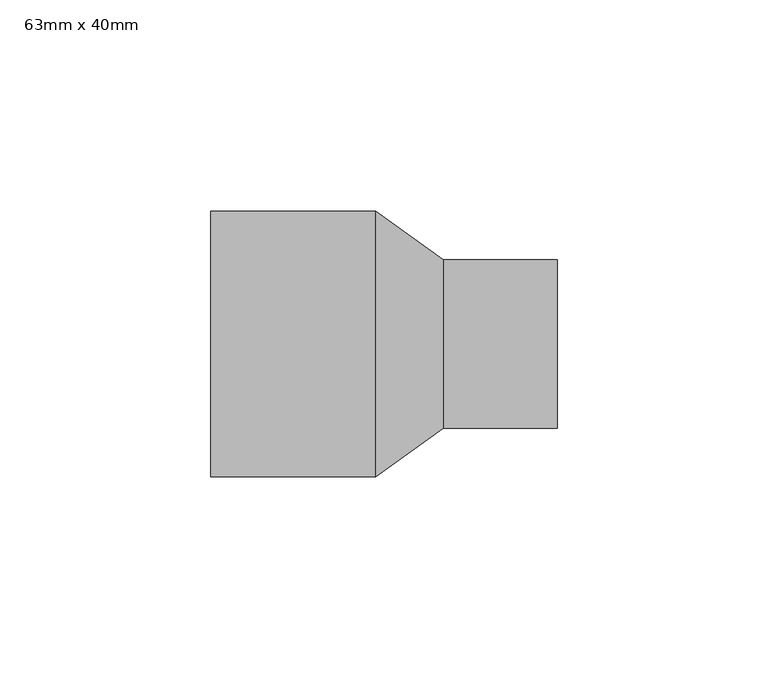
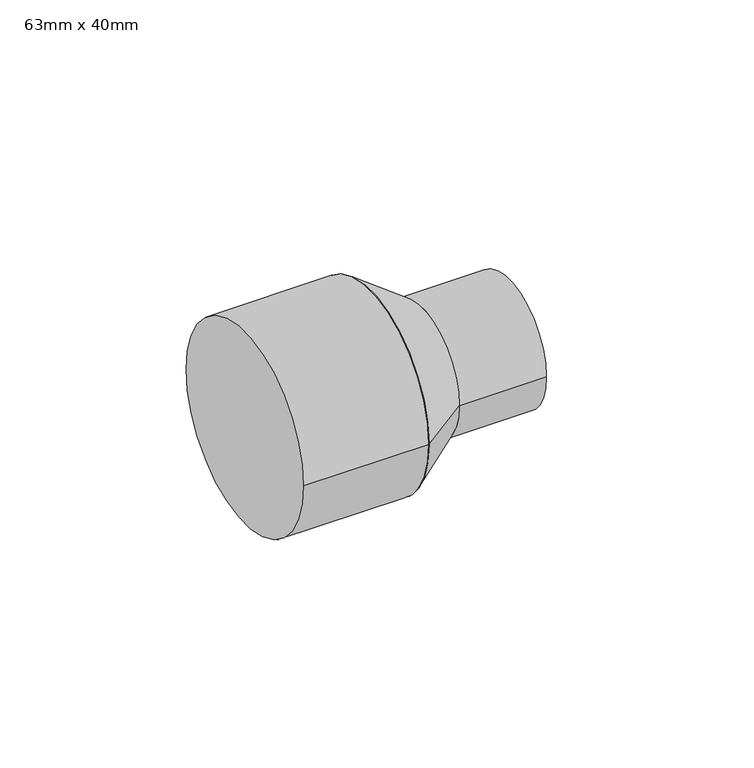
"""IFC4 building model written with IfcOpenShell, lengths in millimetres: pipe fitting geometry, PipeFitting_HTA_CPVC_ReducingBushesLongPattern : 63mm x 40mm."""

from ifc_helpers import new_model, si_unit, point, frame, origin, origin_2d, place, context, project, spatial, polyline, circle_curve, trimmed, segment, composite_curve, outline, extrude, source, transform, mapped, element, save
from ifc_brep_helpers import plane_surface, revolved_surface, advanced_brep


def pipe_fitting_63mm_x_40mm_ea2cc7e9(model_context):
    return source(origin(), model_context, "Body", "SolidModel", [
        advanced_brep(
        [(55.0, -20.0, 0.0), (55.0, 20.0, 0.0), (39.0, -31.5, 0.0), (39.0, 31.5, 0.0)],
        [
            (0, 1, circle_curve(frame((55.0, 0.0, 0.0), z_axis=(1.0, 0.0, 0.0), x_axis=(0.0, -1.0, 0.0)), 20.0)),
            (1, 0, circle_curve(frame((55.0, 0.0, 0.0), z_axis=(1.0, 0.0, 0.0), x_axis=(0.0, 1.0, 0.0)), 20.0)),
            (2, 3, circle_curve(frame((39.0, 0.0, 0.0), z_axis=(-1.0, 0.0, 0.0), x_axis=(0.0, 1.0, 0.0)), 31.5)),
            (3, 2, circle_curve(frame((39.0, 0.0, 0.0), z_axis=(-1.0, 0.0, 0.0), x_axis=(0.0, -1.0, 0.0)), 31.5)),
            (3, 1),
            (0, 2),
        ],
        [
            plane_surface(frame((55.0, 0.0, 0.0), z_axis=(1.0, 0.0, 0.0), x_axis=(0.0, 0.0, -1.0))),
            plane_surface(frame((39.0, 0.0, 0.0), z_axis=(-1.0, 0.0, 0.0), x_axis=(0.0, 0.0, -1.0))),
            revolved_surface(polyline([(55.0, -20.00000001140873, 0.0), (39.0, -31.5, 0.0)]), (82.826087, 0.0, 0.0), (-1.0, 0.0, 0.0)),
            revolved_surface(polyline([(55.0, 20.00000001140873, 0.0), (39.0, 31.5, 0.0)]), (82.826087, 0.0, 0.0), (-1.0, 0.0, 0.0)),
        ],
        [
            (0, [[1, 2]]),
            (1, [[3, 4]]),
            (2, [[-4, 5, -1, 6]]),
            (3, [[-3, -6, -2, -5]]),
        ],
    ),
        extrude(outline(composite_curve([segment(trimmed(circle_curve(origin_2d(), 20.0), [point((-20.0, 0.0))], [point((20.0, 0.0))], False, "CARTESIAN"), True, "CONTINUOUS"), segment(trimmed(circle_curve(origin_2d(), 20.0), [point((20.0, 0.0))], [point((-20.0, 0.0))], False, "CARTESIAN"), True, "CONTINUOUS")], self_intersect=False)), frame((55.0, 0.0, 0.0), z_axis=(1.0, 0.0, 0.0), x_axis=(0.0, 1.0, 0.0)), (0.0, 0.0, 1.0), 27.0),
        extrude(outline(composite_curve([segment(trimmed(circle_curve(origin_2d(), 31.5), [point((-31.5, 0.0))], [point((31.5, 0.0))], False, "CARTESIAN"), True, "CONTINUOUS"), segment(trimmed(circle_curve(origin_2d(), 31.5), [point((31.5, 0.0))], [point((-31.5, 0.0))], False, "CARTESIAN"), True, "CONTINUOUS")], self_intersect=False)), frame((0.0, 0.0, 0.0), z_axis=(1.0, 0.0, 0.0), x_axis=(0.0, 1.0, 0.0)), (0.0, 0.0, 1.0), 39.0),
    ])


if __name__ == "__main__":
    model = new_model("IFC4")
    model_context = context("Model", 3, world=origin())
    ifc_project = project(units=[si_unit("LENGTHUNIT", "METRE", prefix="MILLI")], contexts=[model_context])
    site = spatial("IfcSite", under=ifc_project)
    building = spatial("IfcBuilding", under=site)
    placement = place(None, origin())
    pipe_fitting_63mm_x_40mm_shape = pipe_fitting_63mm_x_40mm_ea2cc7e9(model_context)
    element("IfcPipeFitting", 1, ObjectType="PipeFitting_HTA_CPVC_ReducingBushesLongPattern : 63mm x 40mm", at=placement, inside=building, context=model_context, shape_type="MappedRepresentation", body=[
        mapped(pipe_fitting_63mm_x_40mm_shape, transform((0.0, 0.0, 0.0), x_axis=(1.0, 0.0, 0.0), y_axis=(0.0, 1.0, 0.0), z_axis=(0.0, 0.0, 1.0))),
    ])
    save(model, "model.ifc")
